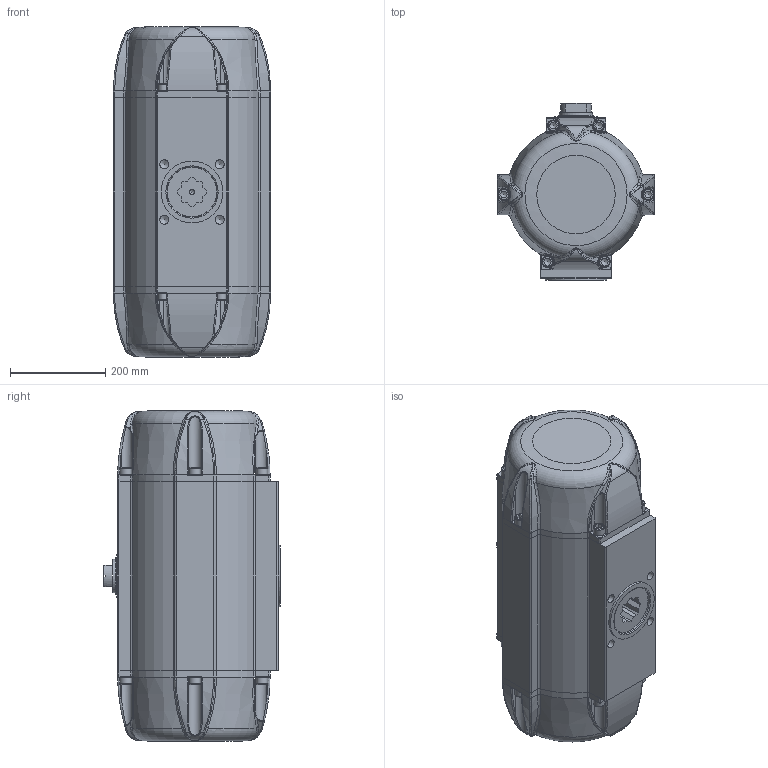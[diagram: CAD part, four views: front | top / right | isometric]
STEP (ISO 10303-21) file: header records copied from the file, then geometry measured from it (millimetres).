
FILE_DESCRIPTION((''),'2;1');
FILE_NAME('Y:\DOKUMENTATION ANTRIEBSPROGRAMM\AKTUELLES ANTRIEBSPROGRAMM\BR03_SAD_SAF_90°_Standard\STEP-Dateien\45\SAF 45 BR03.stp','2018-09-10T07:35:25',('mkl'),(''),'Autodesk Inventor 2013','Autodesk Inventor 2013','');
FILE_SCHEMA(('AUTOMOTIVE_DESIGN { 1 0 10303 214 1 1 1 1 }'));
Length unit declared in the file: millimetre
Products named in the file (1): ENG-051625_Shrinkwrap_1
Bounding box: 330 x 372 x 695 mm (x, y, z)
Surface area: 1025748.7 mm2 (no closed solid volume)
Topology: 0 solids, 28 shells, 578 faces, 1846 edges, 1219 vertices
Faces by surface type: cylinder 185, plane 180, bspline 154, cone 36, torus 23
Full cylindrical faces by diameter (mm): 4.134 x2, 4.917 x4, 10.106 x2, 18.376 x4, 18.631 x2, 24 x12, 40 x1, 65 x1, 69.8 x1, 90 x1, 106 x1, 130 x1
Entity records: 28548 total; most frequent: CARTESIAN_POINT 13682, ORIENTED_EDGE 2829, DIRECTION 2560, EDGE_CURVE 1716, VERTEX_POINT 1183, AXIS2_PLACEMENT_3D 994, EDGE_LOOP 702, FACE_OUTER_BOUND 578
